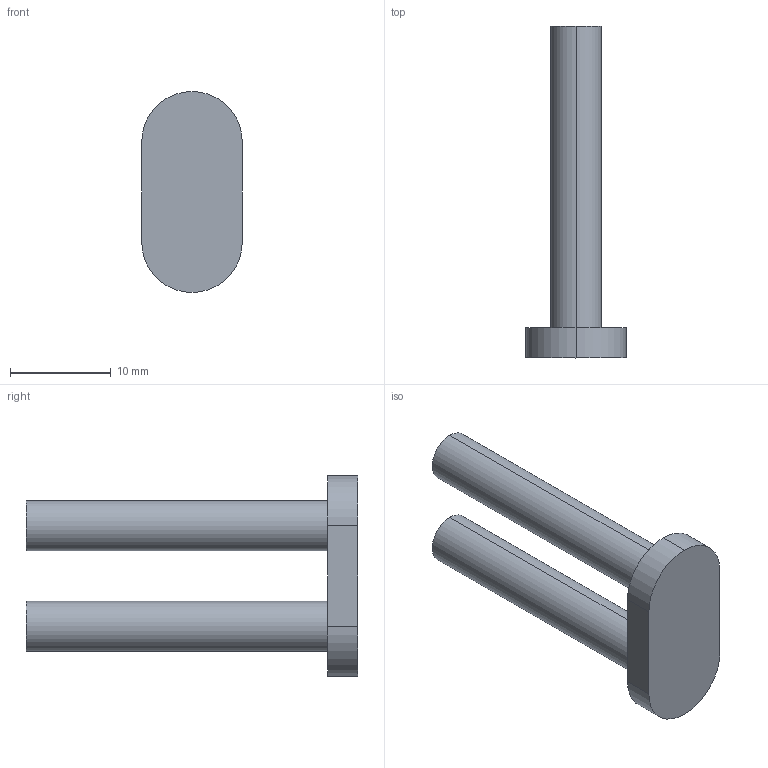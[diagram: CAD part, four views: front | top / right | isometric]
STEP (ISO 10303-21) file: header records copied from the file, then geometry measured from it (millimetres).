
FILE_DESCRIPTION (( 'STEP AP214' ), '1' );
FILE_NAME ('Combined Pin.STEP', '2021-10-04T05:58:00', ( '' ), ( '' ), 'SwSTEP 2.0', 'SolidWorks 2021', '' );
FILE_SCHEMA (( 'AUTOMOTIVE_DESIGN' ));
Length unit declared in the file: millimetre
Products named in the file (1): Combined Pin
Bounding box: 10 x 33 x 20 mm (x, y, z)
Volume: 1713.7 mm3; surface area: 1453.8 mm2
Topology: 1 solids, 1 shells, 13 faces, 27 edges, 18 vertices
Faces by surface type: cylinder 7, plane 6
Entity records: 389 total; most frequent: DIRECTION 69, CARTESIAN_POINT 59, ORIENTED_EDGE 54, AXIS2_PLACEMENT_3D 28, EDGE_CURVE 27, VERTEX_POINT 18, EDGE_LOOP 15, CIRCLE 14
